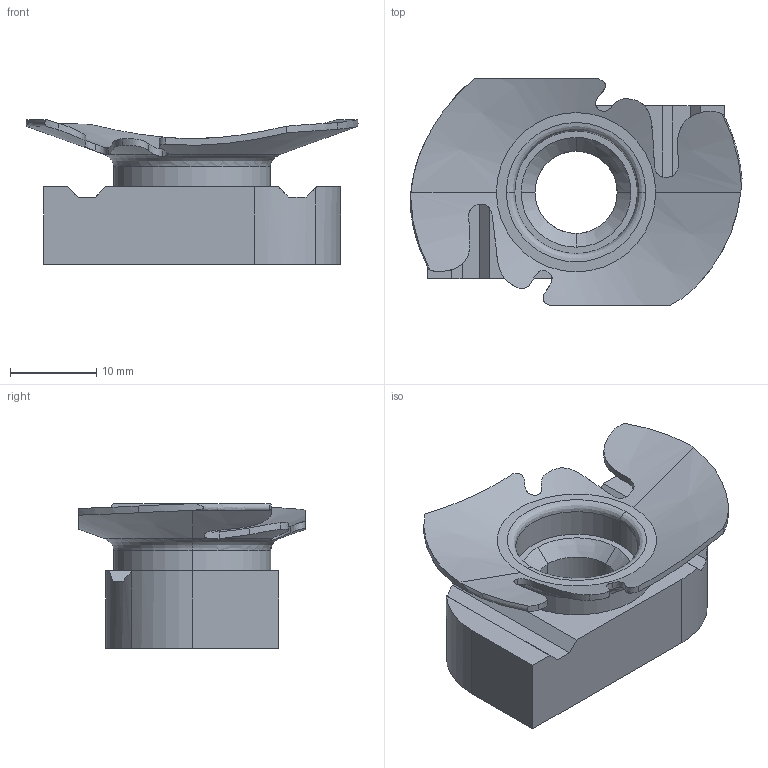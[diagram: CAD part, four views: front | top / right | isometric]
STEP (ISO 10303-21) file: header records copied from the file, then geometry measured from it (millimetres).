
FILE_DESCRIPTION(('TurboCAD Mac Pro'),'Build 980');
FILE_NAME('P1008T.stp',' ',(''),(''),'ACIS Interop','IMSI','TurboCAD Mac Pro BY IMSI, INCORPORATED');
FILE_SCHEMA(('automotive_design'));
Length unit declared in the file: inch
Products named in the file (1): 1
Bounding box: 38.45 x 26.22 x 16.77 mm (x, y, z)
Volume: 5795.3 mm3; surface area: 3836.7 mm2
Topology: 1 solids, 1 shells, 73 faces, 196 edges, 127 vertices
Faces by surface type: bspline 30, plane 20, cone 8, cylinder 8, revolution 7
Entity records: 3874 total; most frequent: CARTESIAN_POINT 1663, ORIENTED_EDGE 392, DIRECTION 233, EDGE_CURVE 196, VERTEX_POINT 127, B_SPLINE_CURVE_WITH_KNOTS 83, AXIS2_PLACEMENT_3D 77, EDGE_LOOP 77
